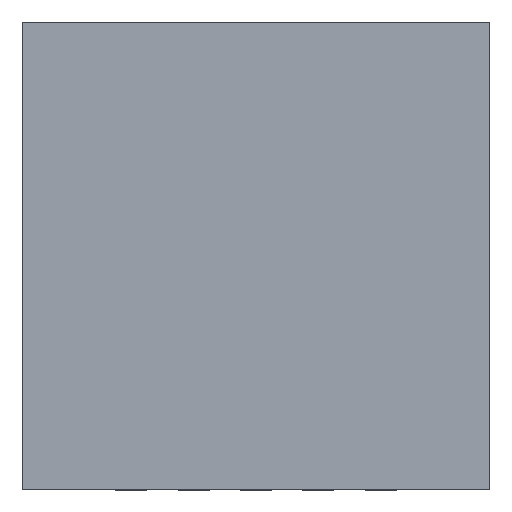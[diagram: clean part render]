
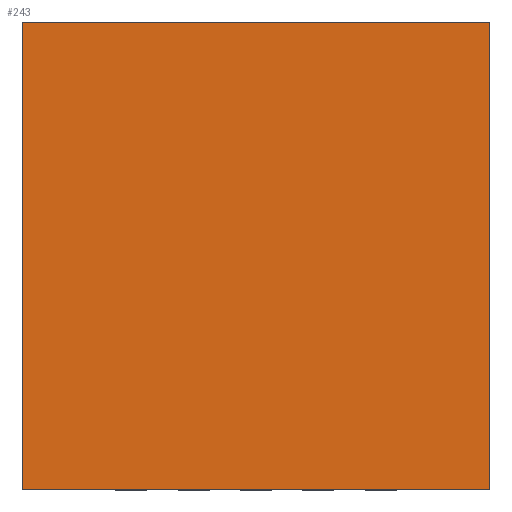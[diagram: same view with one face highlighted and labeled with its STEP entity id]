
A CAD part, top view. The second image highlights one B-rep face of the part: STEP entity #243.
In plain terms, the highlighted planar face has unit normal (0, 0, 1).
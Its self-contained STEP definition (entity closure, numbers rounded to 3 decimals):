
#47 = EDGE_CURVE('',#48,#50,#52,.T.);
#48 = VERTEX_POINT('',#49);
#49 = CARTESIAN_POINT('',(-1.5,-1.5,0.85));
#50 = VERTEX_POINT('',#51);
#51 = CARTESIAN_POINT('',(-1.5,1.5,0.85));
#52 = LINE('',#53,#54);
#53 = CARTESIAN_POINT('',(-1.5,-1.5,0.85));
#54 = VECTOR('',#55,1.);
#55 = DIRECTION('',(-0.,1.,0.));
#243 = ADVANCED_FACE('',(#244),#269,.T.);
#244 = FACE_BOUND('',#245,.T.);
#245 = EDGE_LOOP('',(#246,#247,#255,#263));
#246 = ORIENTED_EDGE('',*,*,#47,.F.);
#247 = ORIENTED_EDGE('',*,*,#248,.T.);
#248 = EDGE_CURVE('',#48,#249,#251,.T.);
#249 = VERTEX_POINT('',#250);
#250 = CARTESIAN_POINT('',(1.5,-1.5,0.85));
#251 = LINE('',#252,#253);
#252 = CARTESIAN_POINT('',(-1.5,-1.5,0.85));
#253 = VECTOR('',#254,1.);
#254 = DIRECTION('',(1.,0.,-0.));
#255 = ORIENTED_EDGE('',*,*,#256,.T.);
#256 = EDGE_CURVE('',#249,#257,#259,.T.);
#257 = VERTEX_POINT('',#258);
#258 = CARTESIAN_POINT('',(1.5,1.5,0.85));
#259 = LINE('',#260,#261);
#260 = CARTESIAN_POINT('',(1.5,-1.5,0.85));
#261 = VECTOR('',#262,1.);
#262 = DIRECTION('',(-0.,1.,0.));
#263 = ORIENTED_EDGE('',*,*,#264,.F.);
#264 = EDGE_CURVE('',#50,#257,#265,.T.);
#265 = LINE('',#266,#267);
#266 = CARTESIAN_POINT('',(-1.5,1.5,0.85));
#267 = VECTOR('',#268,1.);
#268 = DIRECTION('',(1.,0.,-0.));
#269 = PLANE('',#270);
#270 = AXIS2_PLACEMENT_3D('',#271,#272,#273);
#271 = CARTESIAN_POINT('',(-1.5,-1.5,0.85));
#272 = DIRECTION('',(0.,0.,1.));
#273 = DIRECTION('',(1.,0.,-0.));
